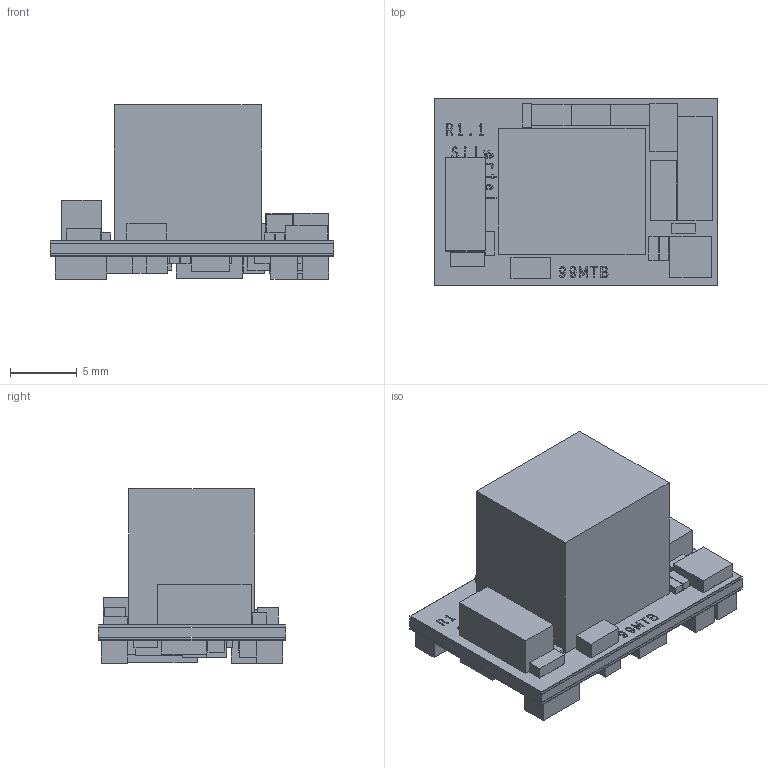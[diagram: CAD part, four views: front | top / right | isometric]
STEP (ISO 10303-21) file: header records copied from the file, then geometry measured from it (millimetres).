
FILE_DESCRIPTION(('FreeCAD Model'),'2;1');
FILE_NAME('Open CASCADE Shape Model','2024-11-04T13:59:39',(''),(''), 'Open CASCADE STEP processor 7.6','FreeCAD','Unknown');
FILE_SCHEMA(('AUTOMOTIVE_DESIGN { 1 0 10303 214 1 1 1 1 }'));
Products named in the file (1): Ag9900MTB_Simplified
Bounding box: 21.21 x 13.92 x 13.05 mm (x, y, z)
Surface area: 4803.8 mm2 (no closed solid volume)
Topology: 0 solids, 2041 shells, 2041 faces, 9982 edges, 9982 vertices
Faces by surface type: extrusion 1881, revolution 160
Entity records: 124092 total; most frequent: CARTESIAN_POINT 22190, DIRECTION 14702, VECTOR 13260, LINE 11379, ORIENTED_EDGE 9982, EDGE_CURVE 9982, VERTEX_POINT 9982, FACE_BOUND 2313
